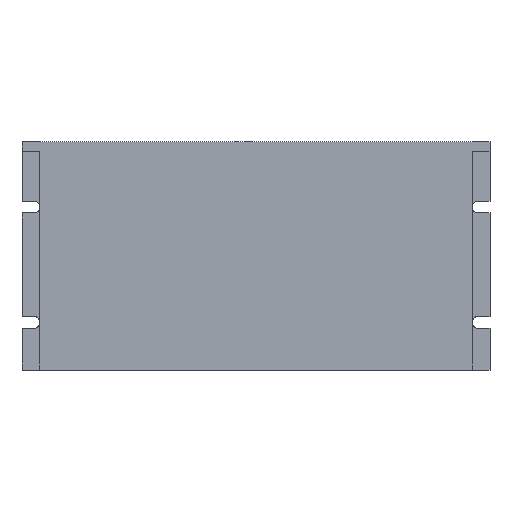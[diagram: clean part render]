
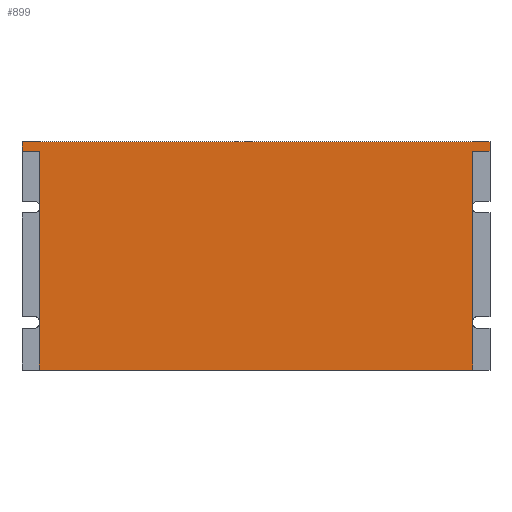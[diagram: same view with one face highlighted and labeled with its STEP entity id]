
A CAD part, top view. The second image highlights one B-rep face of the part: STEP entity #899.
In plain terms, the highlighted planar face has unit normal (0, 0, 1).
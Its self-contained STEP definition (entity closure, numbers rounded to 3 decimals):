
#20 = LINE ( 'NONE', #500, #1046 ) ;
#24 = DIRECTION ( 'NONE',  ( -1., 0., 0. ) ) ;
#46 = CARTESIAN_POINT ( 'NONE',  ( -100.5, 49., 33. ) ) ;
#48 = VERTEX_POINT ( 'NONE', #1151 ) ;
#82 = FACE_OUTER_BOUND ( 'NONE', #683, .T. ) ;
#88 = LINE ( 'NONE', #570, #851 ) ;
#94 = VECTOR ( 'NONE', #1473, 1000. ) ;
#135 = EDGE_CURVE ( 'NONE', #1391, #926, #1130, .T. ) ;
#262 = VERTEX_POINT ( 'NONE', #1213 ) ;
#265 = CARTESIAN_POINT ( 'NONE',  ( 100.5, 45., 33. ) ) ;
#339 = ORIENTED_EDGE ( 'NONE', *, *, #356, .F. ) ;
#342 = DIRECTION ( 'NONE',  ( 0., -1., 0. ) ) ;
#356 = EDGE_CURVE ( 'NONE', #363, #429, #20, .T. ) ;
#363 = VERTEX_POINT ( 'NONE', #265 ) ;
#365 = LINE ( 'NONE', #838, #1108 ) ;
#379 = EDGE_CURVE ( 'NONE', #363, #1391, #504, .T. ) ;
#429 = VERTEX_POINT ( 'NONE', #903 ) ;
#438 = CARTESIAN_POINT ( 'NONE',  ( -93., 45., 33. ) ) ;
#445 = DIRECTION ( 'NONE',  ( -1., 0., 0. ) ) ;
#459 = VERTEX_POINT ( 'NONE', #438 ) ;
#500 = CARTESIAN_POINT ( 'NONE',  ( 100.5, 45., 33. ) ) ;
#504 = LINE ( 'NONE', #982, #94 ) ;
#532 = DIRECTION ( 'NONE',  ( -1., 0., 0. ) ) ;
#560 = ORIENTED_EDGE ( 'NONE', *, *, #1574, .T. ) ;
#564 = PLANE ( 'NONE',  #1183 ) ;
#570 = CARTESIAN_POINT ( 'NONE',  ( -93., 45., 33. ) ) ;
#581 = LINE ( 'NONE', #1059, #1097 ) ;
#627 = LINE ( 'NONE', #1106, #723 ) ;
#683 = EDGE_LOOP ( 'NONE', ( #1152, #1346, #560, #774, #339, #1203, #710, #1266 ) ) ;
#710 = ORIENTED_EDGE ( 'NONE', *, *, #135, .T. ) ;
#723 = VECTOR ( 'NONE', #24, 1000. ) ;
#774 = ORIENTED_EDGE ( 'NONE', *, *, #1488, .F. ) ;
#777 = VECTOR ( 'NONE', #342, 1000. ) ;
#838 = CARTESIAN_POINT ( 'NONE',  ( -100.5, -49., 33. ) ) ;
#851 = VECTOR ( 'NONE', #1048, 1000. ) ;
#899 = ADVANCED_FACE ( 'NONE', ( #82 ), #564, .F. ) ;
#903 = CARTESIAN_POINT ( 'NONE',  ( 93., 45., 33. ) ) ;
#926 = VERTEX_POINT ( 'NONE', #1050 ) ;
#936 = LINE ( 'NONE', #1428, #777 ) ;
#938 = VERTEX_POINT ( 'NONE', #1184 ) ;
#954 = EDGE_CURVE ( 'NONE', #926, #262, #581, .T. ) ;
#977 = DIRECTION ( 'NONE',  ( -1., 0., 0. ) ) ;
#982 = CARTESIAN_POINT ( 'NONE',  ( 100.5, -49., 33. ) ) ;
#1040 = CARTESIAN_POINT ( 'NONE',  ( 0., 0., 33. ) ) ;
#1046 = VECTOR ( 'NONE', #977, 1000. ) ;
#1048 = DIRECTION ( 'NONE',  ( 0., -1., 0. ) ) ;
#1050 = CARTESIAN_POINT ( 'NONE',  ( -100.5, 49., 33. ) ) ;
#1059 = CARTESIAN_POINT ( 'NONE',  ( -100.5, -49., 33. ) ) ;
#1097 = VECTOR ( 'NONE', #1551, 1000. ) ;
#1106 = CARTESIAN_POINT ( 'NONE',  ( -100.5, 45., 33. ) ) ;
#1108 = VECTOR ( 'NONE', #1328, 1000. ) ;
#1130 = LINE ( 'NONE', #46, #1228 ) ;
#1151 = CARTESIAN_POINT ( 'NONE',  ( -93., -49., 33. ) ) ;
#1152 = ORIENTED_EDGE ( 'NONE', *, *, #1200, .F. ) ;
#1183 = AXIS2_PLACEMENT_3D ( 'NONE', #1040, #1531, #445 ) ;
#1184 = CARTESIAN_POINT ( 'NONE',  ( 93., -49., 33. ) ) ;
#1200 = EDGE_CURVE ( 'NONE', #459, #262, #627, .T. ) ;
#1203 = ORIENTED_EDGE ( 'NONE', *, *, #379, .T. ) ;
#1213 = CARTESIAN_POINT ( 'NONE',  ( -100.5, 45., 33. ) ) ;
#1228 = VECTOR ( 'NONE', #532, 1000. ) ;
#1266 = ORIENTED_EDGE ( 'NONE', *, *, #954, .T. ) ;
#1278 = CARTESIAN_POINT ( 'NONE',  ( 100.5, 49., 33. ) ) ;
#1328 = DIRECTION ( 'NONE',  ( 1., 0., 0. ) ) ;
#1346 = ORIENTED_EDGE ( 'NONE', *, *, #1448, .T. ) ;
#1391 = VERTEX_POINT ( 'NONE', #1278 ) ;
#1428 = CARTESIAN_POINT ( 'NONE',  ( 93., 45., 33. ) ) ;
#1448 = EDGE_CURVE ( 'NONE', #459, #48, #88, .T. ) ;
#1473 = DIRECTION ( 'NONE',  ( 0., 1., 0. ) ) ;
#1488 = EDGE_CURVE ( 'NONE', #429, #938, #936, .T. ) ;
#1531 = DIRECTION ( 'NONE',  ( 0., 0., -1. ) ) ;
#1551 = DIRECTION ( 'NONE',  ( 0., -1., 0. ) ) ;
#1574 = EDGE_CURVE ( 'NONE', #48, #938, #365, .T. ) ;
